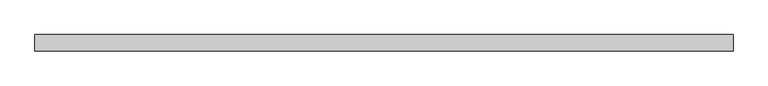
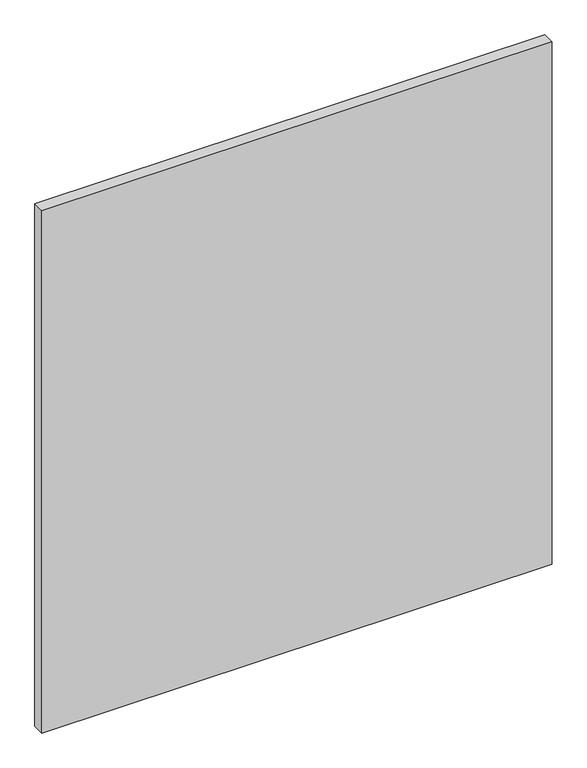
"""IFC4 building model written with IfcOpenShell, lengths in millimetres: plate geometry, Системная панель : С остеклением."""

import ifcopenshell
import ifcopenshell.guid

model = None  # the IFC model being written
_history = None  # IfcOwnerHistory: only IFC2X3 demands one
_inside = {}  # id of a spatial element -> (the spatial element, [elements in it])
_under = {}  # id of a project, library or spatial element -> (it, [spatial elements below it])
_declared = {}  # id of a project -> (the project, [libraries it declares])
_typed = {}  # id of a type object -> (the type object, [elements of that type])
_made_of = {}  # id of a material, layer set ... -> (it, [elements and type objects made of it])


def new_model(schema):
    """Start an empty IFC model of exactly this schema.

    Asked for "IFC4X3", IfcOpenShell would pick the latest addendum, in which some entities
    have other attributes; the version numbers below select the first issue.
    IFC2X3 requires an IfcOwnerHistory on every rooted entity: one is made here for all.
    """
    global model, _history
    if schema == "IFC4X3":
        model = ifcopenshell.file(schema_version=(4, 3, 0, 0))
    else:
        model = ifcopenshell.file(schema=schema)
    _inside.clear()
    _under.clear()
    _declared.clear()
    _typed.clear()
    _made_of.clear()
    _history = None
    if model.schema == "IFC2X3":
        org = make("IfcOrganization", Name="unknown")
        user = make(
            "IfcPersonAndOrganization",
            ThePerson=make("IfcPerson", FamilyName="unknown"),
            TheOrganization=org,
        )
        app = make(
            "IfcApplication",
            ApplicationDeveloper=org,
            Version="unknown",
            ApplicationFullName="unknown",
            ApplicationIdentifier="unknown",
        )
        _history = make(
            "IfcOwnerHistory",
            OwningUser=user,
            OwningApplication=app,
            ChangeAction="ADDED",
            CreationDate=0,
        )
    return model


def make(cls, **values):
    """One entity of the class cls with the attributes given. An attribute that is None is left unset."""
    return model.create_entity(
        cls, **{name: value for name, value in values.items() if value is not None}
    )


def rooted(cls, **values):
    """An entity with a GlobalId (a new one), such as an element, a storey or a relation."""
    return make(cls, GlobalId=ifcopenshell.guid.new(), OwnerHistory=_history, **values)


def si_unit(unit_type, name, prefix=None):
    """IfcSIUnit, for example si_unit("LENGTHUNIT", "METRE", prefix="MILLI")."""
    return make("IfcSIUnit", UnitType=unit_type, Prefix=prefix, Name=name)


def assignment(units):
    """IfcUnitAssignment: the units of a project."""
    return None if units is None else make("IfcUnitAssignment", Units=units)


def point(xyz):
    """IfcCartesianPoint."""
    return None if xyz is None else make("IfcCartesianPoint", Coordinates=xyz)


def direction(xyz):
    """IfcDirection."""
    return None if xyz is None else make("IfcDirection", DirectionRatios=xyz)


def frame(location, z_axis=None, x_axis=None):
    """IfcAxis2Placement3D, a coordinate frame: its origin and axes. An axis left out is left unset."""
    return make(
        "IfcAxis2Placement3D",
        Location=point(location),
        Axis=direction(z_axis),
        RefDirection=direction(x_axis),
    )


def origin():
    """The frame at (0, 0, 0) with its axes left unset."""
    return frame((0.0, 0.0, 0.0))


def origin_with_axes():
    """The frame at (0, 0, 0) with the z axis (0, 0, 1) and the x axis (1, 0, 0) written out."""
    return frame((0.0, 0.0, 0.0), z_axis=(0.0, 0.0, 1.0), x_axis=(1.0, 0.0, 0.0))


def place(relative_to, where):
    """IfcLocalPlacement: puts the frame where relative to a parent placement (None: the world)."""
    return make(
        "IfcLocalPlacement", PlacementRelTo=relative_to, RelativePlacement=where
    )


def context(
    kind, dimensions, precision=None, world=None, true_north=None, identifier=None
):
    """IfcGeometricRepresentationContext, for example the 3D "Model" context."""
    return make(
        "IfcGeometricRepresentationContext",
        ContextIdentifier=identifier,
        ContextType=kind,
        CoordinateSpaceDimension=dimensions,
        Precision=precision,
        WorldCoordinateSystem=world,
        TrueNorth=true_north,
    )


def project(units=None, contexts=None):
    """IfcProject with its units and contexts."""
    return rooted(
        "IfcProject",
        Name="project",
        RepresentationContexts=contexts,
        UnitsInContext=assignment(units),
    )


def spatial(cls, under=None, at=None, **own):
    """A site, building, storey or space (cls), placed at a placement, below another one or the project."""
    s = rooted(cls, ObjectPlacement=at, **own)
    if under is not None:
        _under.setdefault(under.id(), (under, []))[1].append(s)
    return s


def polyline(points):
    """IfcPolyline through the points."""
    return make("IfcPolyline", Points=[point(p) for p in points])


def outline(outer, holes=None, kind="AREA"):
    """IfcArbitraryClosedProfileDef: a profile drawn as a closed curve; with holes, ...WithVoids."""
    if holes is None:
        return make("IfcArbitraryClosedProfileDef", ProfileType=kind, OuterCurve=outer)
    return make(
        "IfcArbitraryProfileDefWithVoids",
        ProfileType=kind,
        OuterCurve=outer,
        InnerCurves=holes,
    )


def extrude(swept, where, along, depth):
    """IfcExtrudedAreaSolid: the profile swept, set in the frame where, extruded along a direction by depth."""
    return make(
        "IfcExtrudedAreaSolid",
        SweptArea=swept,
        Position=where,
        ExtrudedDirection=direction(along),
        Depth=depth,
    )


def shape(context_of_items, identifier, shape_type, items):
    """IfcShapeRepresentation: the items that make up one representation, for example the "Body"."""
    return make(
        "IfcShapeRepresentation",
        ContextOfItems=context_of_items,
        RepresentationIdentifier=identifier,
        RepresentationType=shape_type,
        Items=items,
    )


def source(mapping_origin, context_of_items, identifier, shape_type, items):
    """IfcRepresentationMap: a shape defined once, which mapped items show again and again."""
    return make(
        "IfcRepresentationMap",
        MappingOrigin=mapping_origin,
        MappedRepresentation=shape(context_of_items, identifier, shape_type, items),
    )


def transform(
    local_origin,
    x_axis=None,
    y_axis=None,
    z_axis=None,
    scale=None,
    scale2=None,
    scale3=None,
    uniform=True,
):
    """IfcCartesianTransformationOperator3D, or its non-uniform kind. x_axis, y_axis, z_axis: its Axis1, 2, 3."""
    if uniform:
        return make(
            "IfcCartesianTransformationOperator3D",
            Axis1=direction(x_axis),
            Axis2=direction(y_axis),
            LocalOrigin=point(local_origin),
            Scale=scale,
            Axis3=direction(z_axis),
        )
    return make(
        "IfcCartesianTransformationOperator3DnonUniform",
        Axis1=direction(x_axis),
        Axis2=direction(y_axis),
        LocalOrigin=point(local_origin),
        Scale=scale,
        Axis3=direction(z_axis),
        Scale2=scale2,
        Scale3=scale3,
    )


def mapped(mapping_source, mapping_target):
    """IfcMappedItem: shows the shape of a source again, moved by a transform."""
    return make(
        "IfcMappedItem", MappingSource=mapping_source, MappingTarget=mapping_target
    )


def made_of(thing, what):
    """Note that an element or type object is made of a material, layer set ...; save() writes the relation."""
    if what is not None:
        _made_of.setdefault(what.id(), (what, []))[1].append(thing)
    return thing


def element(
    cls,
    number,
    at=None,
    inside=None,
    cuts=None,
    type_object=None,
    material=None,
    context=None,
    identifier="Body",
    shape_type=None,
    held_by="IfcProductDefinitionShape",
    body=None,
    shapes=None,
    **own,
):
    """One element of the class cls, such as IfcWall. Its Tag is "e" and its number.

    at: its placement. inside: the storey or other place that contains it. cuts: it is an
    opening in that element (IfcRelVoidsElement). A single representation is given by context,
    identifier, shape_type and body (its items); several are given by shapes. held_by: the class
    of the entity that holds the representations. save() writes the other relations.
    """
    e = rooted(cls, Tag="e%d" % number, ObjectPlacement=at, **own)
    if body is not None:
        shapes = [shape(context, identifier, shape_type, body)]
    if shapes is not None:
        e.Representation = make(held_by, Representations=shapes)
    if inside is not None:
        _inside.setdefault(inside.id(), (inside, []))[1].append(e)
    if cuts is not None:
        rooted(
            "IfcRelVoidsElement", RelatingBuildingElement=cuts, RelatedOpeningElement=e
        )
    if type_object is not None:
        _typed.setdefault(type_object.id(), (type_object, []))[1].append(e)
    return made_of(e, material)


def aggregate(whole, parts):
    """IfcRelAggregates: a whole, such as a stair, and the parts it consists of."""
    return rooted("IfcRelAggregates", RelatingObject=whole, RelatedObjects=parts)


def save(model, path):
    """Write the relations noted so far, then the file.

    IfcRelAggregates (storeys below a building ...), IfcRelContainedInSpatialStructure (elements
    in a storey), IfcRelDefinesByType, IfcRelAssociatesMaterial and IfcRelDeclares: one each for
    every whole, place, type object, material and project.
    """
    for whole, parts in _under.values():
        aggregate(whole, parts)
    for where, things in _inside.values():
        rooted(
            "IfcRelContainedInSpatialStructure",
            RelatedElements=things,
            RelatingStructure=where,
        )
    for kind, things in _typed.values():
        rooted("IfcRelDefinesByType", RelatedObjects=things, RelatingType=kind)
    for what, things in _made_of.values():
        rooted("IfcRelAssociatesMaterial", RelatedObjects=things, RelatingMaterial=what)
    for by, libraries in _declared.values():
        rooted("IfcRelDeclares", RelatingContext=by, RelatedDefinitions=libraries)
    model.write(path)


def plate_a68f3988(model_context):
    return source(origin(), model_context, "Body", "SweptSolid", [
        extrude(outline(polyline([(531.3258605, 24.5), (-531.3258605, 24.5), (-531.3258605, 49.5), (531.3258605, 49.5), (531.3258605, 24.5)])), origin_with_axes(), (0.0, 0.0, 1.0), 1150.0),
    ])


if __name__ == "__main__":
    model = new_model("IFC4")
    model_context = context("Model", 3, world=origin())
    ifc_project = project(units=[si_unit("LENGTHUNIT", "METRE", prefix="MILLI")], contexts=[model_context])
    site = spatial("IfcSite", under=ifc_project)
    building = spatial("IfcBuilding", under=site)
    placement = place(None, origin())
    plate_shape = plate_a68f3988(model_context)
    element("IfcPlate", 1, ObjectType="Системная панель : С остеклением", at=placement, inside=building, context=model_context, shape_type="MappedRepresentation", body=[
        mapped(plate_shape, transform((0.0, 0.0, 0.0), x_axis=(1.0, 0.0, 0.0), y_axis=(0.0, 1.0, 0.0), z_axis=(0.0, 0.0, 1.0))),
    ])
    save(model, "model.ifc")
